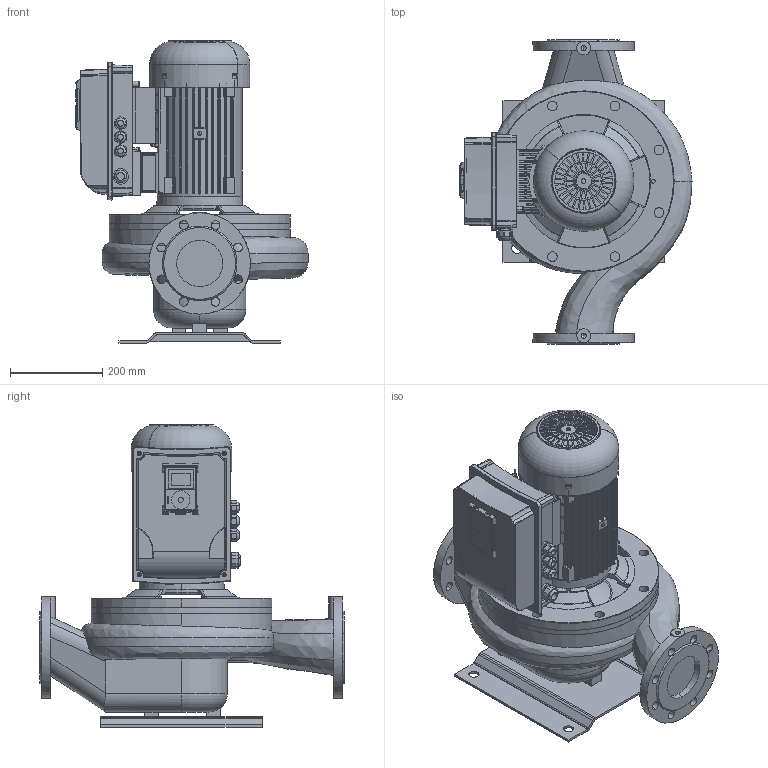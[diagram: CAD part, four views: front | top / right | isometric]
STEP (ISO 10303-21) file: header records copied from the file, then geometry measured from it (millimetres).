
FILE_DESCRIPTION(('STEP AP214'),'1');
FILE_NAME('export.stp','2018-06-04T07:24:54',(' '),(' '),'Spatial InterOp 3D',' ',' ');
FILE_SCHEMA(('AUTOMOTIVE_DESIGN { 1 0 10303 214 1 1 1 1 }'));
Length unit declared in the file: millimetre
Products named in the file (27): 440017; 440016; W_MKP112-2-F31_VS; 480018; 480017; 440018; 440021; Vacon_MS2; G43699; Vacon20CP_MS2; MS2_bottom_final; P101407; MS2_cover_final; Vacon_Display; CAD-3D-VACON-M100-Display.sldasm; Vacon_display_pla; Vacon_display_scr; DIN_966-M5x10; M20_tiivisteholkk; M25_tiivisteholkk; SOVITUSPALA; W_L100S4400KPVS; V_TLL100SAL1202; V_PPL100S; P100496; P100495; P100342
Assembly tree (32 placements, depth 6):
  W_L100S4400KPVS
    W_MKP112-2-F31_VS
      440017
        440016
      480018
        480017
      440018
      440021
      Vacon_MS2
        G43699
        Vacon20CP_MS2
          MS2_bottom_final
          P101407
          MS2_cover_final
          Vacon_Display
            CAD-3D-VACON-M100-Display.sldasm
            Vacon_display_pla
            Vacon_display_scr
          DIN_966-M5x10  x4
          M20_tiivisteholkk  x3
          M25_tiivisteholkk
      SOVITUSPALA
    V_TLL100SAL1202
    V_PPL100S
    P100496
      P100495  x2
      P100342
Bounding box: 503.31 x 660 x 655.9 mm (x, y, z)
Volume: 27162095.3 mm3; surface area: 3235978.2 mm2
Topology: 24 solids, 1497 shells, 4383 faces, 15670 edges, 12802 vertices
Faces by surface type: bspline 1592, cylinder 1234, plane 987, torus 282, cone 249, sphere 39
Entity records: 210178 total; most frequent: CARTESIAN_POINT 86312, ORIENTED_EDGE 22480, EDGE_CURVE 15062, DIRECTION 14639, VERTEX_POINT 12476, B_SPLINE_CURVE_WITH_KNOTS 7454, AXIS2_PLACEMENT_3D 5690, EDGE_LOOP 4668
